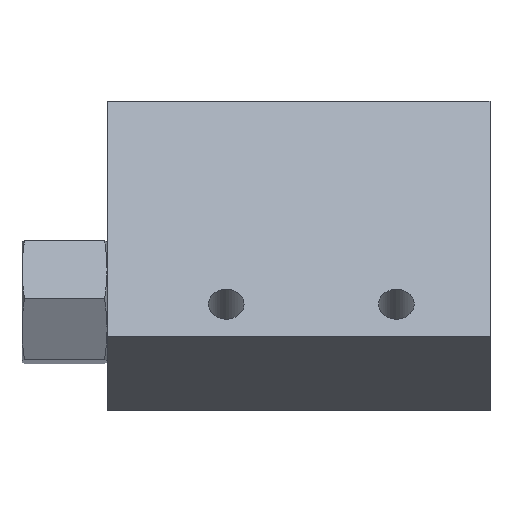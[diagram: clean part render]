
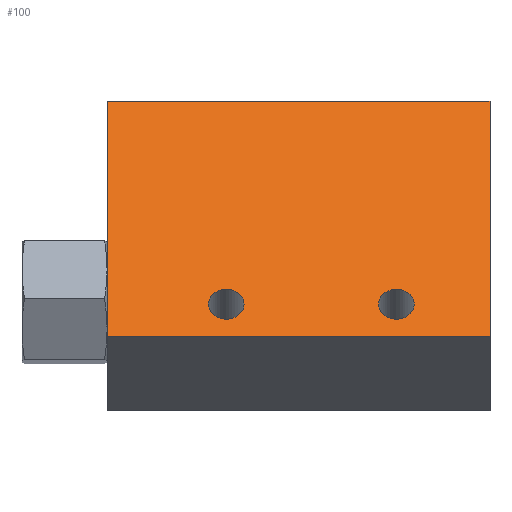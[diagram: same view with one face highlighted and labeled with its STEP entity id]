
A CAD part, front view. The second image highlights one B-rep face of the part: STEP entity #100.
In plain terms, the highlighted planar face has unit normal (0, -0.837, 0.547).
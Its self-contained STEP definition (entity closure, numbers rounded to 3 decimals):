
#100=ADVANCED_FACE('',(#174,#175,#176),#177,.F.);
#174=FACE_OUTER_BOUND('',#266,.T.);
#175=FACE_BOUND('',#267,.T.);
#176=FACE_BOUND('',#268,.T.);
#177=PLANE('',#269);
#266=EDGE_LOOP('',(#472,#473,#474,#475));
#267=EDGE_LOOP('',(#476));
#268=EDGE_LOOP('',(#477));
#269=AXIS2_PLACEMENT_3D('',#478,#479,#480);
#472=ORIENTED_EDGE('',*,*,#591,.F.);
#473=ORIENTED_EDGE('',*,*,#573,.F.);
#474=ORIENTED_EDGE('',*,*,#583,.F.);
#475=ORIENTED_EDGE('',*,*,#587,.F.);
#476=ORIENTED_EDGE('',*,*,#582,.T.);
#477=ORIENTED_EDGE('',*,*,#607,.T.);
#478=CARTESIAN_POINT('',(0.,-6.697,4.376));
#479=DIRECTION('',(0.0,0.837,-0.547));
#480=DIRECTION('',(1.0,0.0,0.0));
#573=EDGE_CURVE('',#665,#666,#667,.T.);
#582=EDGE_CURVE('',#682,#682,#683,.T.);
#583=EDGE_CURVE('',#684,#665,#685,.T.);
#587=EDGE_CURVE('',#689,#684,#691,.T.);
#591=EDGE_CURVE('',#666,#689,#696,.T.);
#607=EDGE_CURVE('',#721,#721,#722,.T.);
#665=VERTEX_POINT('',#829);
#666=VERTEX_POINT('',#830);
#667=LINE('',#831,#832);
#682=VERTEX_POINT('',#853);
#683=CIRCLE('',#854,2.1);
#684=VERTEX_POINT('',#855);
#685=LINE('',#856,#857);
#689=VERTEX_POINT('',#862);
#691=LINE('',#865,#866);
#696=LINE('',#871,#872);
#721=VERTEX_POINT('',#905);
#722=CIRCLE('',#906,2.1);
#829=CARTESIAN_POINT('',(45.0,-6.697,4.376));
#830=CARTESIAN_POINT('',(45.0,-24.747,-23.251));
#831=CARTESIAN_POINT('',(45.0,-6.697,4.376));
#832=VECTOR('',#949,1.0);
#853=CARTESIAN_POINT('',(16.1,-22.285,-19.484));
#854=AXIS2_PLACEMENT_3D('',#962,#963,#964);
#855=CARTESIAN_POINT('',(0.,-6.697,4.376));
#856=CARTESIAN_POINT('',(0.,-6.697,4.376));
#857=VECTOR('',#965,1.0);
#862=CARTESIAN_POINT('',(0.,-24.747,-23.251));
#865=CARTESIAN_POINT('',(0.,-24.747,-23.251));
#866=VECTOR('',#971,1.0);
#871=CARTESIAN_POINT('',(45.0,-24.747,-23.251));
#872=VECTOR('',#981,1.0);
#905=CARTESIAN_POINT('',(36.1,-22.285,-19.484));
#906=AXIS2_PLACEMENT_3D('',#1014,#1015,#1016);
#949=DIRECTION('',(0.0,-0.547,-0.837));
#962=CARTESIAN_POINT('',(14.0,-22.285,-19.484));
#963=DIRECTION('',(0.0,0.837,-0.547));
#964=DIRECTION('',(1.0,0.0,0.0));
#965=DIRECTION('',(1.0,0.0,0.0));
#971=DIRECTION('',(0.0,0.547,0.837));
#981=DIRECTION('',(-1.0,0.0,0.0));
#1014=CARTESIAN_POINT('',(34.0,-22.285,-19.484));
#1015=DIRECTION('',(0.0,0.837,-0.547));
#1016=DIRECTION('',(1.0,0.0,0.0));
